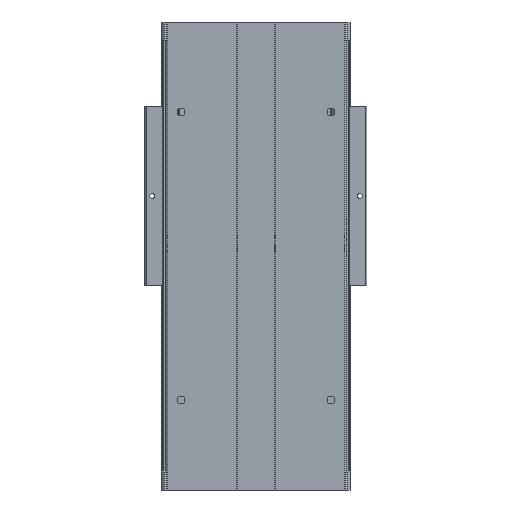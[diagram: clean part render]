
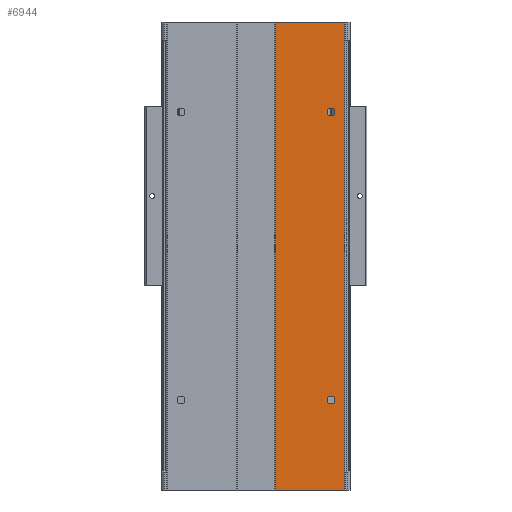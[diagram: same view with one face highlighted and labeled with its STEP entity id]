
A CAD part, front view. The second image highlights one B-rep face of the part: STEP entity #6944.
In plain terms, the highlighted planar face has unit normal (0, -1, 0).
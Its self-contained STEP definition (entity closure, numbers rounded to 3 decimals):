
#535 = CARTESIAN_POINT ( 'NONE',  ( 74., -0.5, -390. ) ) ;
#555 = CARTESIAN_POINT ( 'NONE',  ( 74., -0.5, 0. ) ) ;
#626 = DIRECTION ( 'NONE',  ( 0., 0., 1. ) ) ;
#627 = VECTOR ( 'NONE', #626, 1000. ) ;
#628 = CARTESIAN_POINT ( 'NONE',  ( 74., -0.5, -390. ) ) ;
#629 = LINE ( 'NONE', #628, #627 ) ;
#1244 = PLANE ( 'NONE',  #1308 ) ;
#1245 = FACE_OUTER_BOUND ( 'NONE', #6953, .T. ) ;
#1246 = FACE_BOUND ( 'NONE', #6949, .T. ) ;
#1247 = FACE_BOUND ( 'NONE', #6945, .T. ) ;
#1260 = DIRECTION ( 'NONE',  ( 1., 0., 0. ) ) ;
#1261 = VECTOR ( 'NONE', #1260, 1000. ) ;
#1262 = CARTESIAN_POINT ( 'NONE',  ( 0.031, -0.5, -390. ) ) ;
#1263 = LINE ( 'NONE', #1262, #1261 ) ;
#1264 = CARTESIAN_POINT ( 'NONE',  ( 16., -0.5, -390. ) ) ;
#1265 = DIRECTION ( 'NONE',  ( 0., 0., 1. ) ) ;
#1266 = VECTOR ( 'NONE', #1265, 1000. ) ;
#1267 = CARTESIAN_POINT ( 'NONE',  ( 16., -0.5, -390. ) ) ;
#1268 = LINE ( 'NONE', #1267, #1266 ) ;
#1269 = DIRECTION ( 'NONE',  ( 1., 0., 0. ) ) ;
#1270 = VECTOR ( 'NONE', #1269, 1000. ) ;
#1271 = CARTESIAN_POINT ( 'NONE',  ( 0.031, -0.5, 0. ) ) ;
#1272 = LINE ( 'NONE', #1271, #1270 ) ;
#1295 = CARTESIAN_POINT ( 'NONE',  ( 16., -0.5, 0. ) ) ;
#1296 = DIRECTION ( 'NONE',  ( 0., 0., 1. ) ) ;
#1297 = DIRECTION ( 'NONE',  ( 0., 1., 0. ) ) ;
#1298 = CARTESIAN_POINT ( 'NONE',  ( 62.5, -0.5, -75. ) ) ;
#1299 = AXIS2_PLACEMENT_3D ( 'NONE', #1298, #1297, #1296 ) ;
#1300 = CIRCLE ( 'NONE', #1299, 3.3 ) ;
#1301 = DIRECTION ( 'NONE',  ( 0., 0., 1. ) ) ;
#1302 = DIRECTION ( 'NONE',  ( 0., 1., 0. ) ) ;
#1303 = AXIS2_PLACEMENT_3D ( 'NONE', #1309, #1302, #1301 ) ;
#1304 = CIRCLE ( 'NONE', #1303, 3.3 ) ;
#1305 = DIRECTION ( 'NONE',  ( 0., 0., -1. ) ) ;
#1306 = DIRECTION ( 'NONE',  ( 0., -1., 0. ) ) ;
#1307 = CARTESIAN_POINT ( 'NONE',  ( 0.031, -0.5, -390. ) ) ;
#1308 = AXIS2_PLACEMENT_3D ( 'NONE', #1307, #1306, #1305 ) ;
#1309 = CARTESIAN_POINT ( 'NONE',  ( 62.5, -0.5, -315. ) ) ;
#5773 = EDGE_CURVE ( 'NONE', #5774, #5775, #11906, .T. ) ;
#5774 = VERTEX_POINT ( 'NONE', #11891 ) ;
#5775 = VERTEX_POINT ( 'NONE', #11890 ) ;
#5825 = EDGE_CURVE ( 'NONE', #5826, #5827, #12012, .T. ) ;
#5826 = VERTEX_POINT ( 'NONE', #12003 ) ;
#5827 = VERTEX_POINT ( 'NONE', #12002 ) ;
#6486 = VERTEX_POINT ( 'NONE', #555 ) ;
#6497 = VERTEX_POINT ( 'NONE', #535 ) ;
#6545 = EDGE_CURVE ( 'NONE', #6497, #6486, #629, .T. ) ;
#6928 = EDGE_CURVE ( 'NONE', #6955, #6486, #1272, .T. ) ;
#6929 = ORIENTED_EDGE ( 'NONE', *, *, #6930, .F. ) ;
#6930 = EDGE_CURVE ( 'NONE', #6931, #6955, #1268, .T. ) ;
#6931 = VERTEX_POINT ( 'NONE', #1264 ) ;
#6932 = ORIENTED_EDGE ( 'NONE', *, *, #6933, .T. ) ;
#6933 = EDGE_CURVE ( 'NONE', #6931, #6497, #1263, .T. ) ;
#6934 = ORIENTED_EDGE ( 'NONE', *, *, #6545, .T. ) ;
#6944 = ADVANCED_FACE ( 'NONE', ( #1247, #1246, #1245 ), #1244, .T. ) ;
#6945 = EDGE_LOOP ( 'NONE', ( #6946, #6948 ) ) ;
#6946 = ORIENTED_EDGE ( 'NONE', *, *, #6947, .T. ) ;
#6947 = EDGE_CURVE ( 'NONE', #5775, #5774, #1304, .T. ) ;
#6948 = ORIENTED_EDGE ( 'NONE', *, *, #5773, .T. ) ;
#6949 = EDGE_LOOP ( 'NONE', ( #6950, #6952 ) ) ;
#6950 = ORIENTED_EDGE ( 'NONE', *, *, #6951, .T. ) ;
#6951 = EDGE_CURVE ( 'NONE', #5827, #5826, #1300, .T. ) ;
#6952 = ORIENTED_EDGE ( 'NONE', *, *, #5825, .T. ) ;
#6953 = EDGE_LOOP ( 'NONE', ( #6954, #6929, #6932, #6934 ) ) ;
#6954 = ORIENTED_EDGE ( 'NONE', *, *, #6928, .F. ) ;
#6955 = VERTEX_POINT ( 'NONE', #1295 ) ;
#11890 = CARTESIAN_POINT ( 'NONE',  ( 62.5, -0.5, -311.7 ) ) ;
#11891 = CARTESIAN_POINT ( 'NONE',  ( 62.5, -0.5, -318.3 ) ) ;
#11892 = DIRECTION ( 'NONE',  ( 0., 0., 1. ) ) ;
#11893 = DIRECTION ( 'NONE',  ( 0., 1., 0. ) ) ;
#11894 = CARTESIAN_POINT ( 'NONE',  ( 62.5, -0.5, -315. ) ) ;
#11905 = AXIS2_PLACEMENT_3D ( 'NONE', #11894, #11893, #11892 ) ;
#11906 = CIRCLE ( 'NONE', #11905, 3.3 ) ;
#12002 = CARTESIAN_POINT ( 'NONE',  ( 62.5, -0.5, -71.7 ) ) ;
#12003 = CARTESIAN_POINT ( 'NONE',  ( 62.5, -0.5, -78.3 ) ) ;
#12004 = DIRECTION ( 'NONE',  ( 0., 0., 1. ) ) ;
#12005 = DIRECTION ( 'NONE',  ( 0., 1., 0. ) ) ;
#12006 = CARTESIAN_POINT ( 'NONE',  ( 62.5, -0.5, -75. ) ) ;
#12007 = AXIS2_PLACEMENT_3D ( 'NONE', #12006, #12005, #12004 ) ;
#12012 = CIRCLE ( 'NONE', #12007, 3.3 ) ;
